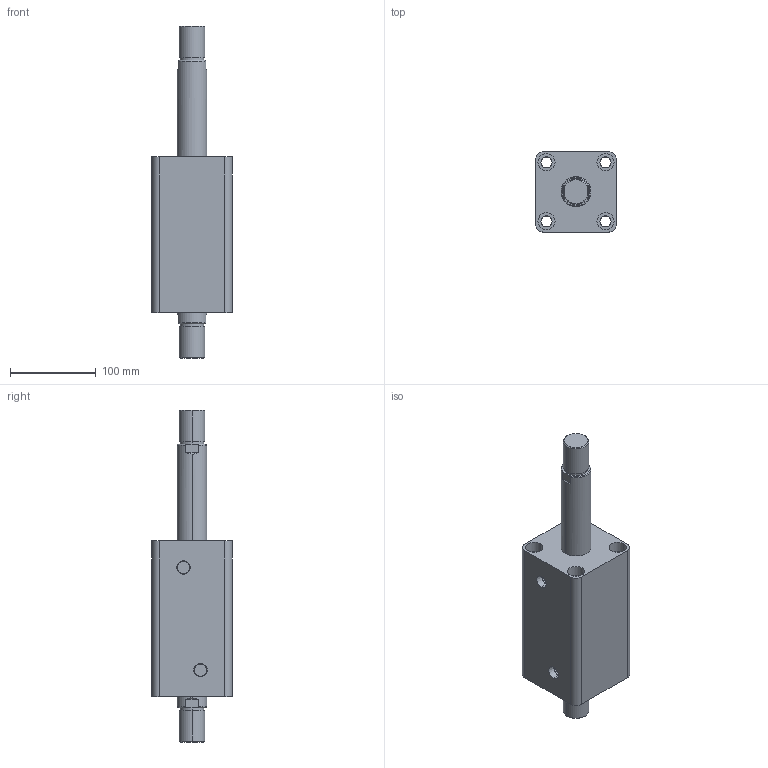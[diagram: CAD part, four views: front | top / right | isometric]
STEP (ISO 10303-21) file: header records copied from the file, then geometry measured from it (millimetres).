
FILE_DESCRIPTION (( 'STEP AP203' ), '1' );
FILE_NAME ('HTB-SW63-100W.STEP', '2019-10-07T10:10:17', ( '微软用户' ), ( '微软中国' ), 'SwSTEP 2.0', 'SolidWorks 2012', '' );
FILE_SCHEMA (( 'CONFIG_CONTROL_DESIGN' ));
Length unit declared in the file: millimetre
Products named in the file (3): HTB-SW63-100W; HTB-SW63-100W活塞杆; HTB-SW63-100掛极
Assembly tree (2 placements, depth 2):
  HTB-SW63-100W
    HTB-SW63-100掛极
    HTB-SW63-100W活塞杆
Bounding box: 94 x 94 x 388 mm (x, y, z)
Volume: 1437247.4 mm3; surface area: 197251.1 mm2
Topology: 2 solids, 2 shells, 108 faces, 240 edges, 156 vertices
Faces by surface type: cylinder 52, plane 36, torus 12, cone 8
Entity records: 3465 total; most frequent: CARTESIAN_POINT 645, DIRECTION 586, ORIENTED_EDGE 480, AXIS2_PLACEMENT_3D 249, EDGE_CURVE 240, VERTEX_POINT 156, EDGE_LOOP 138, CIRCLE 136
